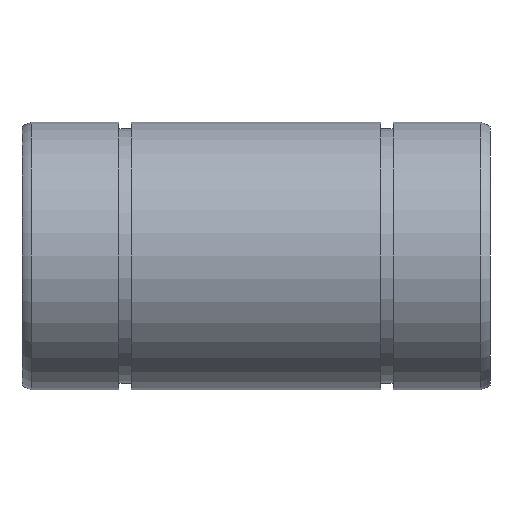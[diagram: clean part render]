
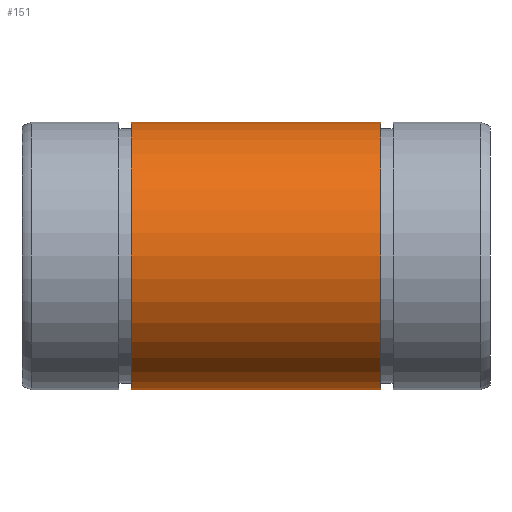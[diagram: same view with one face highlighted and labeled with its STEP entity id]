
A CAD part, front view. The second image highlights one B-rep face of the part: STEP entity #151.
In plain terms, the highlighted cylindrical face has radius 20 mm (diameter 40 mm), a full revolution.
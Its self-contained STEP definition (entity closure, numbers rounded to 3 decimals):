
#117=CARTESIAN_POINT('',(53.65,0.0,20.0));
#118=VERTEX_POINT('',#117);
#119=CARTESIAN_POINT('',(53.65,0.0,0.));
#120=DIRECTION('',(-1.0,0.0,0.0));
#121=DIRECTION('',(0.0,0.0,1.0));
#122=AXIS2_PLACEMENT_3D('',#119,#120,#121);
#123=CIRCLE('',#122,20.);
#124=EDGE_CURVE('',#118,#118,#123,.T.);
#132=CARTESIAN_POINT('',(35.,0.0,0.));
#133=DIRECTION('',(-1.0,0.0,0.0));
#134=DIRECTION('',(0.0,0.0,1.0));
#135=AXIS2_PLACEMENT_3D('',#132,#133,#134);
#136=CYLINDRICAL_SURFACE('',#135,20.);
#137=CARTESIAN_POINT('',(16.35,0.0,20.));
#138=VERTEX_POINT('',#137);
#139=CARTESIAN_POINT('',(16.35,0.0,0.));
#140=DIRECTION('',(-1.0,0.0,0.0));
#141=DIRECTION('',(0.0,0.0,1.0));
#142=AXIS2_PLACEMENT_3D('',#139,#140,#141);
#143=CIRCLE('',#142,20.);
#144=EDGE_CURVE('',#138,#138,#143,.T.);
#145=ORIENTED_EDGE('',*,*,#144,.F.);
#146=EDGE_LOOP('',(#145));
#147=FACE_OUTER_BOUND('',#146,.T.);
#148=ORIENTED_EDGE('',*,*,#124,.T.);
#149=EDGE_LOOP('',(#148));
#150=FACE_BOUND('',#149,.T.);
#151=ADVANCED_FACE('',(#147,#150),#136,.T.);
